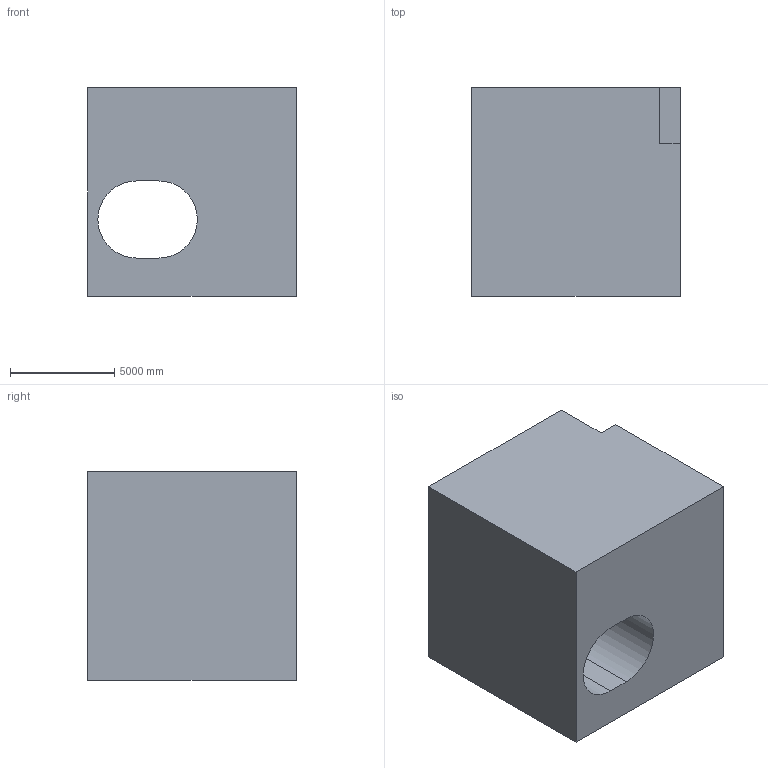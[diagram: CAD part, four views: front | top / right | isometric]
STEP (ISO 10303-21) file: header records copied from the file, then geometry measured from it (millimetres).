
FILE_DESCRIPTION (( 'STEP AP203' ), '1' );
FILE_NAME ('16.STEP', '2022-09-02T13:41:07', ( 'user' ), ( '' ), 'SwSTEP 2.0', 'SolidWorks 2021', '' );
FILE_SCHEMA (( 'CONFIG_CONTROL_DESIGN' ));
Length unit declared in the file: centimetre
Products named in the file (1): 16
Bounding box: 10000 x 10000 x 10000 mm (x, y, z)
Volume: 843500625759.9 mm3; surface area: 708292234.4 mm2
Topology: 1 solids, 1 shells, 13 faces, 33 edges, 22 vertices
Faces by surface type: plane 11, cylinder 2
Entity records: 472 total; most frequent: CARTESIAN_POINT 69, ORIENTED_EDGE 66, DIRECTION 65, EDGE_CURVE 33, LINE 29, VECTOR 29, VERTEX_POINT 22, AXIS2_PLACEMENT_3D 18
